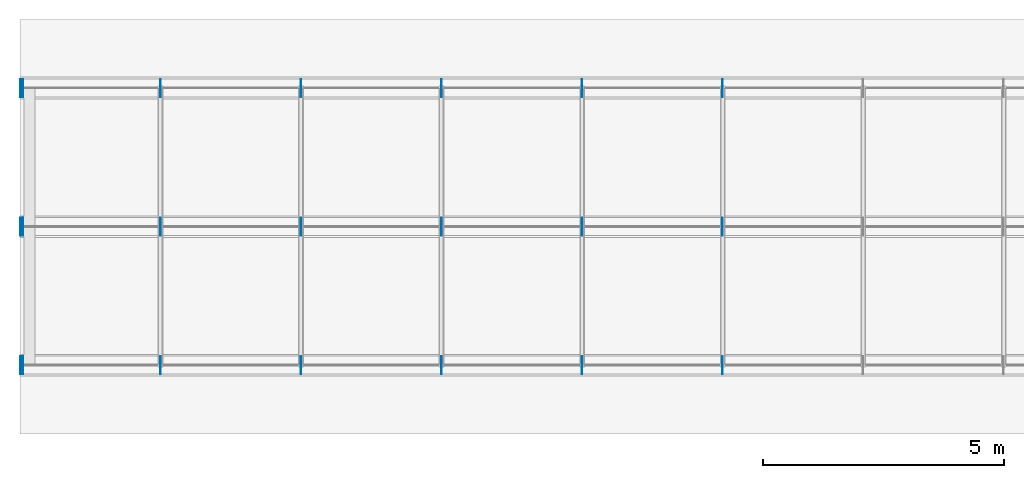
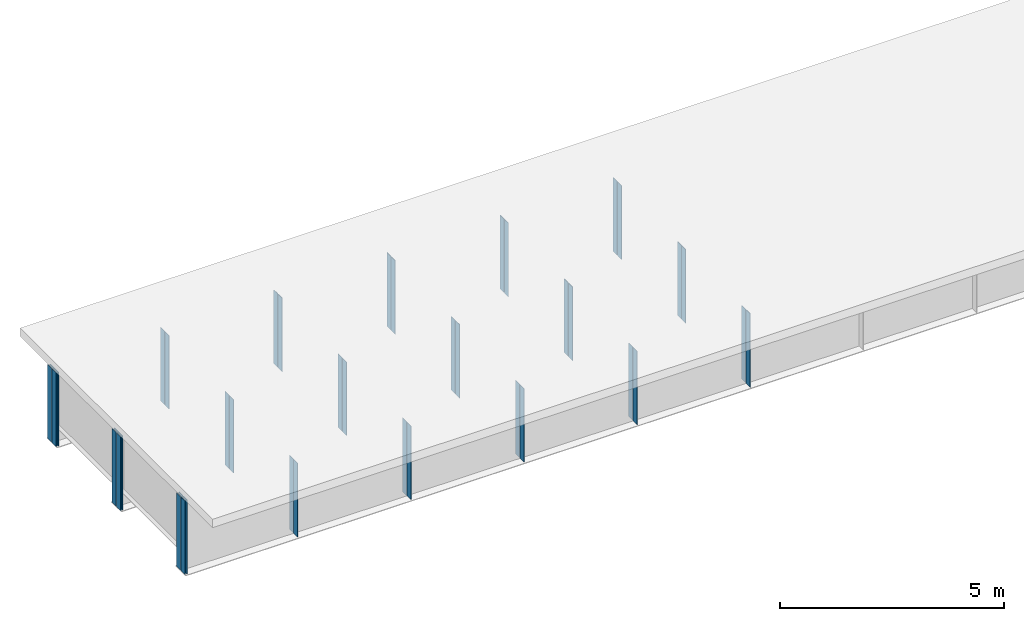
# One storey, part 2 of 11: 42 plates.
"""IFC4 building model written with IfcOpenShell, lengths in metres."""

from ifc_helpers import new_model, si_unit, frame, origin, origin_with_axes, origin_2d_with_axis, place, context, subcontext, project, spatial, rectangle, extrude, element, save


model = new_model("IFC4")

# Units and contexts
model_context = context("Model", 3, precision=1e-05, world=origin())
body_context = subcontext(model_context, "Body", "Model", "MODEL_VIEW")
ifc_project = project(units=[si_unit("LENGTHUNIT", "METRE"), si_unit("AREAUNIT", "SQUARE_METRE"), si_unit("VOLUMEUNIT", "CUBIC_METRE"), si_unit("PLANEANGLEUNIT", "RADIAN")], contexts=[model_context])

# Site, building, storey
site_placement = place(None, origin_with_axes())
site = spatial("IfcSite", under=ifc_project, at=site_placement, Name="Default Site")
building_placement = place(site_placement, origin_with_axes())
building = spatial("IfcBuilding", under=site, at=building_placement, Name="Bridge Structure")
storey_placement = place(building_placement, origin_with_axes())
storey = spatial("IfcBuildingStorey", under=building, at=storey_placement, Name="Superstructure")

# Plates
for number, where, z_axis, x_axis, name in (
    (1, (2.916, -2.7767500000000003, -1.005), (0.0, 0.0, 1.0), (1.0, 0.0, 0.0), "Intermediate Stiffener 1"),
    (2, (2.916, -2.97325, -1.005), (0.0, 0.0, 1.0), (1.0, 0.0, 0.0), "Intermediate Stiffener 1"),
    (3, (5.832, -2.7767500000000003, -1.005), (0.0, 0.0, 1.0), (1.0, 0.0, 0.0), "Intermediate Stiffener 1"),
    (4, (5.832, -2.97325, -1.005), (0.0, 0.0, 1.0), (1.0, 0.0, 0.0), "Intermediate Stiffener 1"),
    (5, (8.748, -2.7767500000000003, -1.005), (0.0, 0.0, 1.0), (1.0, 0.0, 0.0), "Intermediate Stiffener 1"),
    (6, (8.748, -2.97325, -1.005), (0.0, 0.0, 1.0), (1.0, 0.0, 0.0), "Intermediate Stiffener 1"),
    (7, (11.664, -2.7767500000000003, -1.005), (0.0, 0.0, 1.0), (1.0, 0.0, 0.0), "Intermediate Stiffener 1"),
    (8, (11.664, -2.97325, -1.005), (0.0, 0.0, 1.0), (1.0, 0.0, 0.0), "Intermediate Stiffener 1"),
    (9, (14.58, -2.7767500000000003, -1.005), (0.0, 0.0, 1.0), (1.0, 0.0, 0.0), "Intermediate Stiffener 1"),
    (10, (14.58, -2.97325, -1.005), (0.0, 0.0, 1.0), (1.0, 0.0, 0.0), "Intermediate Stiffener 1"),
):
    element("IfcPlate", number, at=place(storey_placement, frame(where, z_axis=z_axis, x_axis=x_axis)), inside=storey, Name=name, context=body_context, shape_type="SweptSolid", body=[
        extrude(rectangle(XDim=0.012, YDim=0.1785, at=origin_2d_with_axis()), origin_with_axes(), (0.0, 0.0, 1.0), 2.01),
    ])
for number, where, z_axis, x_axis, name in (
    (11, (0.01, -2.7767500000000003, -1.005), (0.0, 0.0, 1.0), (1.0, 0.0, 0.0), "End Stiffener 1"),
    (12, (0.01, -2.97325, -1.005), (0.0, 0.0, 1.0), (1.0, 0.0, 0.0), "End Stiffener 1"),
    (13, (0.06, -2.7767500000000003, -1.005), (0.0, 0.0, 1.0), (1.0, 0.0, 0.0), "End Stiffener 1"),
    (14, (0.06, -2.97325, -1.005), (0.0, 0.0, 1.0), (1.0, 0.0, 0.0), "End Stiffener 1"),
):
    element("IfcPlate", number, at=place(storey_placement, frame(where, z_axis=z_axis, x_axis=x_axis)), inside=storey, Name=name, context=body_context, shape_type="SweptSolid", body=[
        extrude(rectangle(XDim=0.02, YDim=0.1785, at=origin_2d_with_axis()), origin_with_axes(), (0.0, 0.0, 1.0), 2.01),
    ])
for number, where, z_axis, x_axis, name in (
    (15, (2.916, 0.09825, -1.005), (0.0, 0.0, 1.0), (1.0, 0.0, 0.0), "Intermediate Stiffener 2"),
    (16, (2.916, -0.09825, -1.005), (0.0, 0.0, 1.0), (1.0, 0.0, 0.0), "Intermediate Stiffener 2"),
    (17, (5.832, 0.09825, -1.005), (0.0, 0.0, 1.0), (1.0, 0.0, 0.0), "Intermediate Stiffener 2"),
    (18, (5.832, -0.09825, -1.005), (0.0, 0.0, 1.0), (1.0, 0.0, 0.0), "Intermediate Stiffener 2"),
    (19, (8.748, 0.09825, -1.005), (0.0, 0.0, 1.0), (1.0, 0.0, 0.0), "Intermediate Stiffener 2"),
    (20, (8.748, -0.09825, -1.005), (0.0, 0.0, 1.0), (1.0, 0.0, 0.0), "Intermediate Stiffener 2"),
    (21, (11.664, 0.09825, -1.005), (0.0, 0.0, 1.0), (1.0, 0.0, 0.0), "Intermediate Stiffener 2"),
    (22, (11.664, -0.09825, -1.005), (0.0, 0.0, 1.0), (1.0, 0.0, 0.0), "Intermediate Stiffener 2"),
    (23, (14.58, 0.09825, -1.005), (0.0, 0.0, 1.0), (1.0, 0.0, 0.0), "Intermediate Stiffener 2"),
    (24, (14.58, -0.09825, -1.005), (0.0, 0.0, 1.0), (1.0, 0.0, 0.0), "Intermediate Stiffener 2"),
):
    element("IfcPlate", number, at=place(storey_placement, frame(where, z_axis=z_axis, x_axis=x_axis)), inside=storey, Name=name, context=body_context, shape_type="SweptSolid", body=[
        extrude(rectangle(XDim=0.012, YDim=0.1785, at=origin_2d_with_axis()), origin_with_axes(), (0.0, 0.0, 1.0), 2.01),
    ])
for number, where, z_axis, x_axis, name in (
    (25, (0.01, 0.09825, -1.005), (0.0, 0.0, 1.0), (1.0, 0.0, 0.0), "End Stiffener 2"),
    (26, (0.01, -0.09825, -1.005), (0.0, 0.0, 1.0), (1.0, 0.0, 0.0), "End Stiffener 2"),
    (27, (0.06, 0.09825, -1.005), (0.0, 0.0, 1.0), (1.0, 0.0, 0.0), "End Stiffener 2"),
    (28, (0.06, -0.09825, -1.005), (0.0, 0.0, 1.0), (1.0, 0.0, 0.0), "End Stiffener 2"),
):
    element("IfcPlate", number, at=place(storey_placement, frame(where, z_axis=z_axis, x_axis=x_axis)), inside=storey, Name=name, context=body_context, shape_type="SweptSolid", body=[
        extrude(rectangle(XDim=0.02, YDim=0.1785, at=origin_2d_with_axis()), origin_with_axes(), (0.0, 0.0, 1.0), 2.01),
    ])
for number, where, z_axis, x_axis, name in (
    (29, (2.916, 2.97325, -1.005), (0.0, 0.0, 1.0), (1.0, 0.0, 0.0), "Intermediate Stiffener 3"),
    (30, (2.916, 2.7767500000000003, -1.005), (0.0, 0.0, 1.0), (1.0, 0.0, 0.0), "Intermediate Stiffener 3"),
    (31, (5.832, 2.97325, -1.005), (0.0, 0.0, 1.0), (1.0, 0.0, 0.0), "Intermediate Stiffener 3"),
    (32, (5.832, 2.7767500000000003, -1.005), (0.0, 0.0, 1.0), (1.0, 0.0, 0.0), "Intermediate Stiffener 3"),
    (33, (8.748, 2.97325, -1.005), (0.0, 0.0, 1.0), (1.0, 0.0, 0.0), "Intermediate Stiffener 3"),
    (34, (8.748, 2.7767500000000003, -1.005), (0.0, 0.0, 1.0), (1.0, 0.0, 0.0), "Intermediate Stiffener 3"),
    (35, (11.664, 2.97325, -1.005), (0.0, 0.0, 1.0), (1.0, 0.0, 0.0), "Intermediate Stiffener 3"),
    (36, (11.664, 2.7767500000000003, -1.005), (0.0, 0.0, 1.0), (1.0, 0.0, 0.0), "Intermediate Stiffener 3"),
    (37, (14.58, 2.97325, -1.005), (0.0, 0.0, 1.0), (1.0, 0.0, 0.0), "Intermediate Stiffener 3"),
    (38, (14.58, 2.7767500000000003, -1.005), (0.0, 0.0, 1.0), (1.0, 0.0, 0.0), "Intermediate Stiffener 3"),
):
    element("IfcPlate", number, at=place(storey_placement, frame(where, z_axis=z_axis, x_axis=x_axis)), inside=storey, Name=name, context=body_context, shape_type="SweptSolid", body=[
        extrude(rectangle(XDim=0.012, YDim=0.1785, at=origin_2d_with_axis()), origin_with_axes(), (0.0, 0.0, 1.0), 2.01),
    ])
for number, where, z_axis, x_axis, name in (
    (39, (0.01, 2.97325, -1.005), (0.0, 0.0, 1.0), (1.0, 0.0, 0.0), "End Stiffener 3"),
    (40, (0.01, 2.7767500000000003, -1.005), (0.0, 0.0, 1.0), (1.0, 0.0, 0.0), "End Stiffener 3"),
    (41, (0.06, 2.97325, -1.005), (0.0, 0.0, 1.0), (1.0, 0.0, 0.0), "End Stiffener 3"),
    (42, (0.06, 2.7767500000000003, -1.005), (0.0, 0.0, 1.0), (1.0, 0.0, 0.0), "End Stiffener 3"),
):
    element("IfcPlate", number, at=place(storey_placement, frame(where, z_axis=z_axis, x_axis=x_axis)), inside=storey, Name=name, context=body_context, shape_type="SweptSolid", body=[
        extrude(rectangle(XDim=0.02, YDim=0.1785, at=origin_2d_with_axis()), origin_with_axes(), (0.0, 0.0, 1.0), 2.01),
    ])

save(model, "model.ifc")
